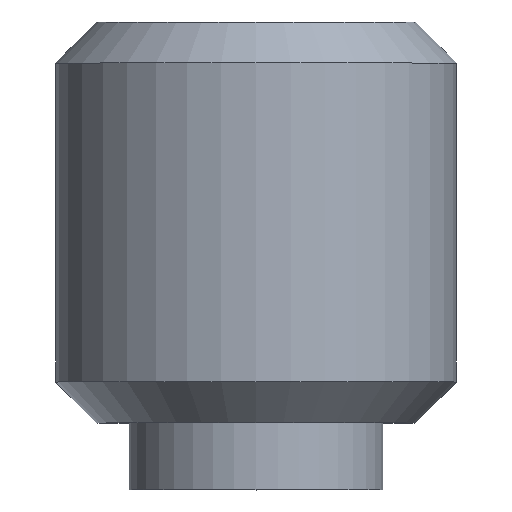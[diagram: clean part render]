
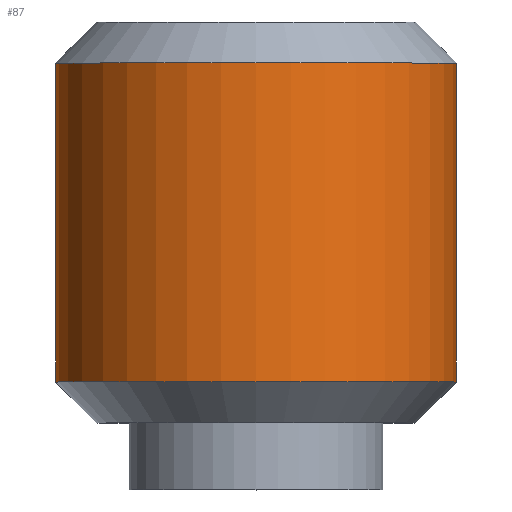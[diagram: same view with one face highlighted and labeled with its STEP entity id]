
A CAD part, top view. The second image highlights one B-rep face of the part: STEP entity #87.
In plain terms, the highlighted cylindrical face has radius 1.5 mm (diameter 3 mm), a full revolution.
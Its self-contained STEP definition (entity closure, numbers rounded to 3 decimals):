
#87 = ADVANCED_FACE( '', ( #118, #119 ), #120, .T. );
#118 = FACE_OUTER_BOUND( '', #152, .T. );
#119 = FACE_OUTER_BOUND( '', #153, .T. );
#120 = CYLINDRICAL_SURFACE( '', #154, 1.5 );
#152 = EDGE_LOOP( '', ( #238 ) );
#153 = EDGE_LOOP( '', ( #239 ) );
#154 = AXIS2_PLACEMENT_3D( '', #240, #241, #242 );
#238 = ORIENTED_EDGE( '', *, *, #270, .F. );
#239 = ORIENTED_EDGE( '', *, *, #271, .T. );
#240 = CARTESIAN_POINT( '', ( 0., 0., 0. ) );
#241 = DIRECTION( '', ( 0., 1., 0. ) );
#242 = DIRECTION( '', ( 0., 0., -1. ) );
#270 = EDGE_CURVE( '', #310, #310, #311, .T. );
#271 = EDGE_CURVE( '', #312, #312, #313, .T. );
#310 = VERTEX_POINT( '', #370 );
#311 = CIRCLE( '', #371, 1.5 );
#312 = VERTEX_POINT( '', #372 );
#313 = CIRCLE( '', #373, 1.5 );
#370 = CARTESIAN_POINT( '', ( 0., 0.807, -1.5 ) );
#371 = AXIS2_PLACEMENT_3D( '', #404, #405, #406 );
#372 = CARTESIAN_POINT( '', ( 0., 3.194, -1.5 ) );
#373 = AXIS2_PLACEMENT_3D( '', #407, #408, #409 );
#404 = CARTESIAN_POINT( '', ( 0., 0.807, 0. ) );
#405 = DIRECTION( '', ( 0., -1., 0. ) );
#406 = DIRECTION( '', ( 0., 0., -1. ) );
#407 = CARTESIAN_POINT( '', ( 0., 3.194, 0. ) );
#408 = DIRECTION( '', ( 0., -1., 0. ) );
#409 = DIRECTION( '', ( 0., 0., -1. ) );
